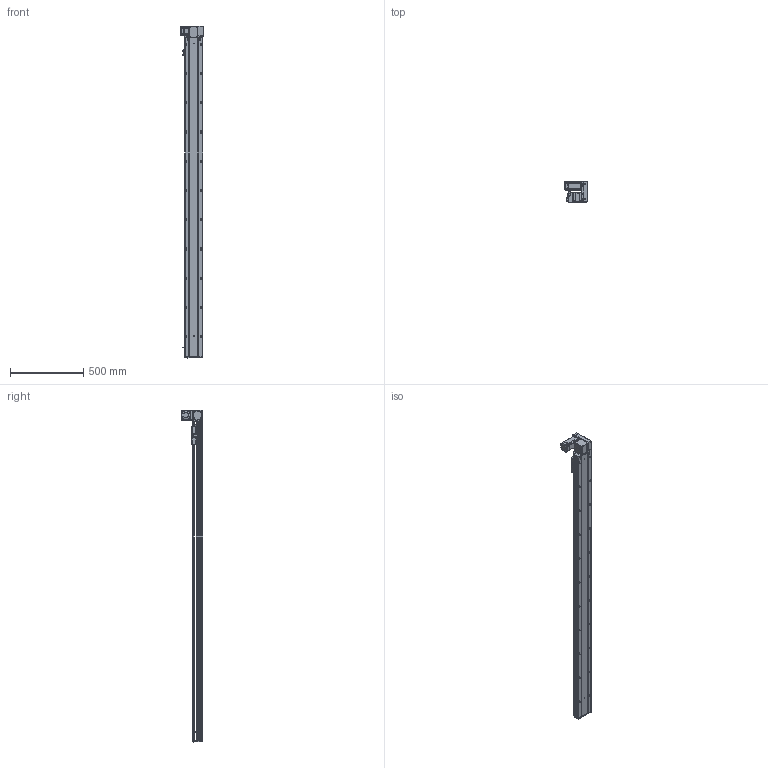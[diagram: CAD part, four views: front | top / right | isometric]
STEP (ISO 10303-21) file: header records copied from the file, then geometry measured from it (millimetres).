
FILE_DESCRIPTION (( 'STEP AP203' ), '1' );
FILE_NAME ('RY120-T-300-UR.SLDASM_1950.step', '2021-03-01T05:58:18', ( '盈信电脑' ), ( '东莞市道滘镇水果街19号' ), 'SwSTEP 2.0', 'SolidWorks 2012', '' );
FILE_SCHEMA (( 'CONFIG_CONTROL_DESIGN' ));
Products named in the file (17): RY120-T蹟翐M4; RY120-T主同步轮轴承压盖; RY120-T萇儂欶; RY120-T-300-UR.SLDASM_1950; RY120-T萇儂假蚾啣; 15; RY120-T翋肮祭謫裔啣; 滅袉蝶18-10; RY120外置感应片(140共用）; RY120-T肮祭湍揤踡輸2; RY120-T翋肮祭盓傅釱; RY120-T肮祭湍揤踡輸1; 覜茼ん672; RY120肮祭湍臏賑輸; RY120綴裔啣; RY120-T-300-UR倰第菁釱_1950; RY120-T-300-UR倰第奻裔啣_1950
Assembly tree (22 placements, depth 2):
  RY120-T-300-UR.SLDASM_1950
    RY120-T-300-UR倰第菁釱_1950
    RY120-T-300-UR倰第奻裔啣_1950
    RY120肮祭湍臏賑輸
    RY120綴裔啣
    覜茼ん672  x3
    RY120外置感应片(140共用）
    RY120-T肮祭湍揤踡輸1
    RY120-T肮祭湍揤踡輸2
    RY120-T翋肮祭盓傅釱
    RY120-T萇儂假蚾啣
    滅袉蝶18-10  x2
    RY120-T翋肮祭謫裔啣
    15
    RY120-T蹟翐M4  x4
    RY120-T萇儂欶
    RY120-T主同步轮轴承压盖
Bounding box: 155.5 x 146 x 2271 mm (x, y, z)
Volume: 5696691.4 mm3; surface area: 2174962.8 mm2
Topology: 23 solids, 23 shells, 3108 faces, 8508 edges, 5422 vertices
Faces by surface type: plane 1452, cylinder 1246, cone 321, bspline 89
Entity records: 100057 total; most frequent: CARTESIAN_POINT 26196, ORIENTED_EDGE 15312, DIRECTION 14430, EDGE_CURVE 7656, VERTEX_POINT 5009, AXIS2_PLACEMENT_3D 4903, VECTOR 4624, LINE 4624
